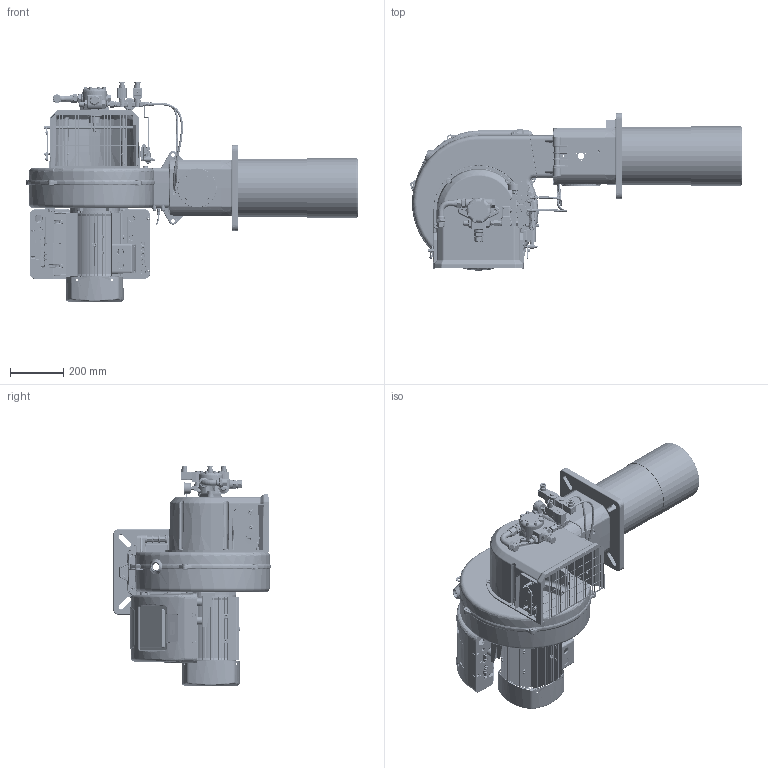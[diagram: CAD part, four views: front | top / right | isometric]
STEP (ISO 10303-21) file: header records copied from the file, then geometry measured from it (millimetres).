
FILE_DESCRIPTION(('STEP AP214'), '1');
FILE_NAME('GARANT-250 L òðóáà 450', '', ('UNSPECIFIED'), ('UNSPECIFIED'), 'ASCON STEP Converter 1.3', 'ASCON Math Kernel', '');
FILE_SCHEMA(('AUTOMOTIVE_DESIGN { 1 0 10303 214 3 1 1}'));
Length unit declared in the file: millimetre
Bounding box: 1243.56 x 590.31 x 825.55 mm (x, y, z)
Volume: 8170728.4 mm3; surface area: 5896599 mm2
Topology: 29 solids, 40 shells, 15097 faces, 38435 edges, 23982 vertices
Faces by surface type: plane 4940, cylinder 4131, bspline 2637, cone 1545, torus 1166, sphere 518, extrusion 160
Full cylindrical faces by diameter (mm): 1 x4, 1.74 x2, 2.097 x1, 2.5 x6, 2.8 x2, 3 x13, 3.2 x32, 3.5 x1, 4 x6, 4.2 x12, 4.5 x2, 4.537 x1, 4.8 x13, 4.917 x2, 5 x16, 5.1 x4, 5.2 x18, 5.5 x1, 6 x12, 6.2 x1, 6.3 x2, 6.5 x226, 6.6 x2, 6.8 x9, 7 x6, 7.2 x2, 8 x26, 8.1 x1, 8.5 x6, 8.55 x4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
Entity records: 929683 total; most frequent: CARTESIAN_POINT 473380, ORIENTED_EDGE 73166, DIRECTION 61981, EDGE_CURVE 36583, VERTEX_POINT 23920, AXIS2_PLACEMENT_3D 23628, EDGE_LOOP 18595, FACE_BOUND 16827
